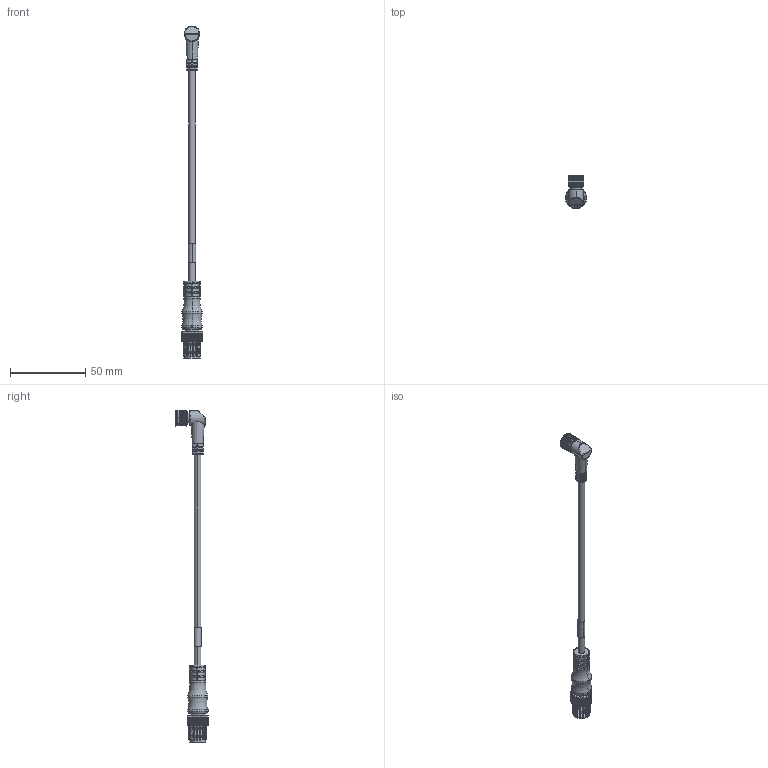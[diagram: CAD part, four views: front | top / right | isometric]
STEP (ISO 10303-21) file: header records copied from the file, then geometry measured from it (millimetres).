
FILE_DESCRIPTION((''),'2;1');
FILE_NAME('889P-R3HBD4M-2_ASM','2015-05-21T',('20040676'),('Rockwell Automation'),'PRO/ENGINEER BY PARAMETRIC TECHNOLOGY CORPORATION, 2009140','PRO/ENGINEER BY PARAMETRIC TECHNOLOGY CORPORATION, 2009140','');
FILE_SCHEMA(('CONFIG_CONTROL_DESIGN'));
Length unit declared in the file: inch
Products named in the file (3): 889D-M4HB-2; 889P-R3AB-2; 889P-R3HBD4M-2_ASM
Assembly tree (2 placements, depth 2):
  889P-R3HBD4M-2_ASM
    889D-M4HB-2
    889P-R3AB-2
Bounding box: 14 x 22.07 x 220.31 mm (x, y, z)
Volume: 9196.9 mm3; surface area: 6990.9 mm2
Topology: 2 solids, 2 shells, 916 faces, 2288 edges, 1404 vertices
Faces by surface type: plane 418, cylinder 351, cone 102, torus 41, bspline 2, sphere 2
Entity records: 28387 total; most frequent: CARTESIAN_POINT 6101, DIRECTION 4912, ORIENTED_EDGE 4576, EDGE_CURVE 2288, AXIS2_PLACEMENT_3D 1894, VERTEX_POINT 1404, VECTOR 1124, LINE 1124
